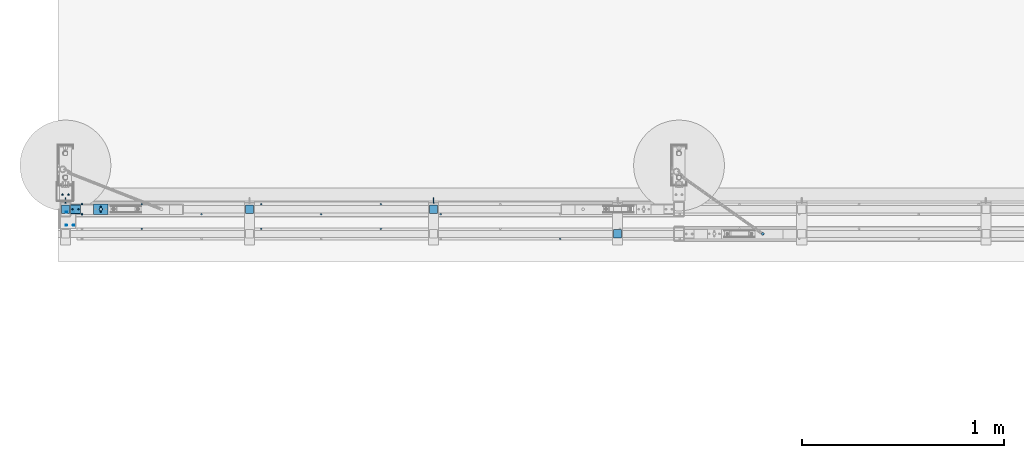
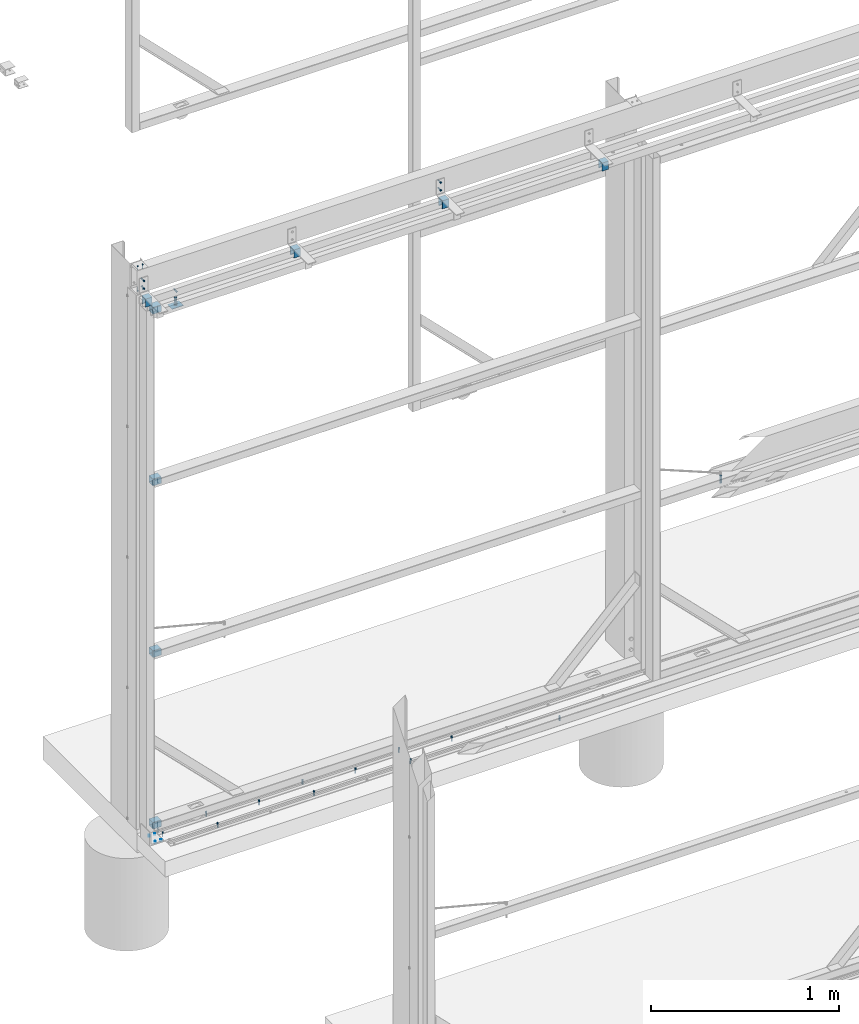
# One storey, part 36 of 91: 22 mechanical fasteners, 10 discrete accessories, 12 elements without a shape of their own.
"""IFC2X3 building model written with IfcOpenShell, lengths in millimetres."""

from ifc_helpers import new_model, si_unit, frame, origin_with_axes, origin_2d_with_axis, place, context, subcontext, project, spatial, polyline, hollow_rectangle, circle, c_section, outline, extrude, source, transform, mapped, material, type_object, element, aggregate, save


model = new_model("IFC2X3")

# Units and contexts
model_context = context("Model", 3, precision=1e-05, world=origin_with_axes())
body_context = subcontext(model_context, "Body", "Model", "MODEL_VIEW")
ifc_project = project(units=[si_unit("LENGTHUNIT", "METRE", prefix="MILLI"), si_unit("AREAUNIT", "SQUARE_METRE"), si_unit("VOLUMEUNIT", "CUBIC_METRE"), si_unit("MASSUNIT", "GRAM", prefix="KILO"), si_unit("TIMEUNIT", "SECOND"), si_unit("PLANEANGLEUNIT", "RADIAN"), si_unit("SOLIDANGLEUNIT", "STERADIAN"), si_unit("THERMODYNAMICTEMPERATUREUNIT", "DEGREE_CELSIUS"), si_unit("LUMINOUSINTENSITYUNIT", "LUMEN")], contexts=[model_context])

# Site, building, storey
site_placement = place(None, origin_with_axes())
site = spatial("IfcSite", under=ifc_project, at=site_placement, Name="Undefined", CompositionType="ELEMENT")
building_placement = place(site_placement, origin_with_axes())
building = spatial("IfcBuilding", under=site, at=building_placement, Name="Undefined", CompositionType="ELEMENT")
storey_placement = place(building_placement, origin_with_axes())
storey = spatial("IfcBuildingStorey", under=building, at=storey_placement, Name="Undefined", CompositionType="ELEMENT", Elevation=0.0)

# Assembly, discrete accessory
assembly_1_placement = place(storey_placement, origin_with_axes())
assembly_1 = element("IfcElementAssembly", 1, at=assembly_1_placement, inside=storey, Name="ROD", AssemblyPlace="NOTDEFINED", PredefinedType="RIGID_FRAME")
ifc_material_1 = material(Name="STEEL/250")
discrete_accessory_type_1 = type_object("IfcDiscreteAccessoryType", Name="PLATE")
discrete_accessory_1_placement = place(assembly_1_placement, frame((-116655.84, 87737.15, 3324.5), z_axis=(0.0, 0.0, 1.0), x_axis=(0.0, -1.0, 0.0)))
discrete_accessory_1 = element("IfcDiscreteAccessory", 2, at=discrete_accessory_1_placement, type_object=discrete_accessory_type_1, material=ifc_material_1, Name="PLATE", ObjectType="PLT3*50", context=body_context, shape_type="SweptSolid", body=[
    extrude(outline(polyline([(0.0, 0.0), (50.0, 0.0), (50.0, 70.0), (0.0, 70.0), (0.0, 0.0)])), frame((0.0, 0.0, -1.5), z_axis=(0.0, 0.0, 1.0), x_axis=(1.0, 0.0, 0.0)), (0.0, 0.0, 1.0), 3.0),
])

# Assembly, mechanical fastener
assembly_2_placement = place(storey_placement, origin_with_axes())
assembly_2 = element("IfcElementAssembly", 3, at=assembly_2_placement, inside=storey, Name="DOOR STOPPER", AssemblyPlace="NOTDEFINED", PredefinedType="RIGID_FRAME")
ifc_material_2 = material(Name="TEK_11TPIM")
discrete_accessory_type_2 = type_object("IfcDiscreteAccessoryType", Name="Bolt assembly")
shared_shape_1 = source(origin_with_axes(), body_context, "Body", "SweptSolid", [
    extrude(circle(Radius=3.0, at=origin_2d_with_axis()), frame((0.0, 0.0, 0.0), z_axis=(0.0, 1.0, 0.0), x_axis=(1.0, 0.0, 0.0)), (0.0, 0.0, 1.0), 7.9),
])
mechanical_fastener_1_placement = place(assembly_2_placement, frame((-116773.34, 87632.6509765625, -49.2), z_axis=(-1.0, 0.0, 0.0), x_axis=(0.0, 1.0, 0.0)))
mechanical_fastener_1 = element("IfcMechanicalFastener", 4, at=mechanical_fastener_1_placement, type_object=discrete_accessory_type_2, material=ifc_material_2, Name="Bolt assembly", NominalDiameter=6.0, NominalLength=7.80000019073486, context=body_context, shape_type="MappedRepresentation", body=[
    mapped(shared_shape_1, transform((0.0, 0.0, -17.5))),
    mapped(shared_shape_1, transform((65.0, 0.0, -17.5))),
    mapped(shared_shape_1, transform((0.0, 0.0, 17.5))),
    mapped(shared_shape_1, transform((65.0, 0.0, 17.5))),
])
aggregate(assembly_2, [mechanical_fastener_1])

assembly_3_placement = place(storey_placement, origin_with_axes())
assembly_3 = element("IfcElementAssembly", 5, at=assembly_3_placement, inside=storey, Name="SLIDING DOOR", AssemblyPlace="NOTDEFINED", PredefinedType="RIGID_FRAME")
ifc_material_3 = material(Name="8.8S")
shared_shape_2 = source(origin_with_axes(), body_context, "Body", "SweptSolid", [
    extrude(circle(Radius=7.0, at=origin_2d_with_axis()), frame((0.0, 0.0033333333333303, 0.0), z_axis=(0.0, 1.0, 0.0), x_axis=(1.0, 0.0, 0.0)), (0.0, 0.0, 1.0), 50.1),
])
mechanical_fastener_2_placement = place(assembly_3_placement, frame((-113343.336232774, 87590.15, 1147.34), z_axis=(1.0, 0.0, 0.0), x_axis=(0.0, -1.0, 0.0)))
mechanical_fastener_2 = element("IfcMechanicalFastener", 6, at=mechanical_fastener_2_placement, type_object=discrete_accessory_type_2, material=ifc_material_3, Name="Bolt assembly", NominalDiameter=12.0, NominalLength=49.9966659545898, context=body_context, shape_type="MappedRepresentation", body=[
    mapped(shared_shape_2, transform((0.0, 0.0, 0.0))),
])
aggregate(assembly_3, [mechanical_fastener_2])

assembly_4_placement = place(storey_placement, origin_with_axes())
assembly_4 = element("IfcElementAssembly", 7, at=assembly_4_placement, inside=storey, Name="SLIDING DOOR", AssemblyPlace="NOTDEFINED", PredefinedType="RIGID_FRAME")
shared_shape_3 = source(origin_with_axes(), body_context, "Body", "SweptSolid", [
    extrude(circle(Radius=8.0, at=origin_2d_with_axis()), frame((0.0, 0.0, 0.0), z_axis=(0.0, 1.0, 0.0), x_axis=(1.0, 0.0, 0.0)), (0.0, 0.0, 1.0), 50.1),
])
mechanical_fastener_3_placement = place(assembly_4_placement, frame((-116620.84, 87712.15, 3326.0), z_axis=(0.0, -1.0, 0.0), x_axis=(1.0, 0.0, 0.0)))
mechanical_fastener_3 = element("IfcMechanicalFastener", 8, at=mechanical_fastener_3_placement, type_object=discrete_accessory_type_2, material=ifc_material_3, Name="Bolt assembly", NominalDiameter=10.0, NominalLength=50.0, context=body_context, shape_type="MappedRepresentation", body=[
    mapped(shared_shape_3, transform((0.0, 0.0, 0.0))),
])
aggregate(assembly_4, [mechanical_fastener_3])

# Discrete accessory
discrete_accessory_type_3 = type_object("IfcDiscreteAccessoryType", Name="SPRING PIN")
discrete_accessory_2_placement = place(assembly_1_placement, frame((-116620.84, 87697.15, 3421.0), z_axis=(1.0, 0.0, 0.0), x_axis=(0.0, 1.0, 0.0)))
discrete_accessory_2 = element("IfcDiscreteAccessory", 9, at=discrete_accessory_2_placement, type_object=discrete_accessory_type_3, material=ifc_material_1, Name="SPRING PIN", ObjectType="D6", context=body_context, shape_type="SweptSolid", body=[
    extrude(circle(Radius=3.0, at=origin_2d_with_axis()), frame((30.0, 0.0, 0.0), z_axis=(-1.0, 0.0, 0.0), x_axis=(0.0, -1.0, 0.0)), (0.0, 0.0, 1.0), 30.0),
])

aggregate(assembly_1, [discrete_accessory_2, discrete_accessory_1])

# Assembly, mechanical fastener
assembly_5_placement = place(storey_placement, origin_with_axes())
assembly_5 = element("IfcElementAssembly", 10, at=assembly_5_placement, inside=storey, Name="DOOR BRACKET", AssemblyPlace="NOTDEFINED", PredefinedType="RIGID_FRAME")
shared_shape_4 = source(origin_with_axes(), body_context, "Body", "SweptSolid", [
    extrude(circle(Radius=3.0, at=origin_2d_with_axis()), frame((0.0, -6.0, 0.0), z_axis=(0.0, 1.0, 0.0), x_axis=(1.0, 0.0, 0.0)), (0.0, 0.0, 1.0), 6.1),
    extrude(outline(polyline([(4.61880215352, 0.0), (2.30940107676, 4.00000000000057), (-2.30940107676, 4.00000000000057), (-4.61880215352, 0.0), (-2.30940107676, -4.00000000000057), (2.30940107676, -4.00000000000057), (4.61880215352, 0.0)])), frame((0.0, -11.1000000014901, 0.0), z_axis=(0.0, 1.0, 0.0), x_axis=(1.0, 0.0, 0.0)), (0.0, 0.0, 1.0), 5.0),
    extrude(circle(Radius=3.0, at=origin_2d_with_axis()), frame((0.0, -6.10000000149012, 0.0), z_axis=(0.0, 1.0, 0.0), x_axis=(1.0, 0.0, 0.0)), (0.0, 0.0, 1.0), 25.0),
    extrude(circle(Radius=3.0, at=origin_2d_with_axis()), frame((0.0, -6.10000000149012, 0.0), z_axis=(0.0, 1.0, 0.0), x_axis=(1.0, 0.0, 0.0)), (0.0, 0.0, 1.0), 0.1),
    extrude(circle(Radius=3.0, at=origin_2d_with_axis()), frame((0.0, 0.0, 0.0), z_axis=(0.0, 1.0, 0.0), x_axis=(1.0, 0.0, 0.0)), (0.0, 0.0, 1.0), 0.1),
    extrude(outline(polyline([(3.46410161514, 0.0), (1.73205080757, 3.00000000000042), (-1.73205080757, 3.00000000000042), (-3.46410161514, 0.0), (-1.73205080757, -3.00000000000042), (1.73205080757, -3.00000000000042), (3.46410161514, 0.0)])), frame((0.0, 0.1, 0.0), z_axis=(0.0, 1.0, 0.0), x_axis=(1.0, 0.0, 0.0)), (0.0, 0.0, 1.0), 0.1),
])
mechanical_fastener_4_placement = place(assembly_5_placement, frame((-114973.34, 87752.15, 3524.0), z_axis=(1.0, 0.0, 0.0), x_axis=(0.0, 0.0, -1.0)))
mechanical_fastener_4 = element("IfcMechanicalFastener", 11, at=mechanical_fastener_4_placement, type_object=discrete_accessory_type_2, material=ifc_material_2, Name="Bolt assembly", NominalDiameter=6.0, NominalLength=25.0, context=body_context, shape_type="MappedRepresentation", body=[
    mapped(shared_shape_4, transform((0.0, 0.0, 0.0))),
    mapped(shared_shape_4, transform((50.0, 0.0, 0.0))),
])

assembly_6_placement = place(storey_placement, origin_with_axes())
assembly_6 = element("IfcElementAssembly", 12, at=assembly_6_placement, inside=storey, Name="DOOR BRACKET", AssemblyPlace="NOTDEFINED", PredefinedType="RIGID_FRAME")
mechanical_fastener_5_placement = place(assembly_6_placement, frame((-116795.84, 87752.15, 3524.0), z_axis=(1.0, 0.0, 0.0), x_axis=(0.0, 0.0, -1.0)))
mechanical_fastener_5 = element("IfcMechanicalFastener", 13, at=mechanical_fastener_5_placement, type_object=discrete_accessory_type_2, material=ifc_material_2, Name="Bolt assembly", NominalDiameter=6.0, NominalLength=25.0, context=body_context, shape_type="MappedRepresentation", body=[
    mapped(shared_shape_4, transform((0.0, 0.0, 0.0))),
    mapped(shared_shape_4, transform((50.0, 0.0, 0.0))),
])

# Assembly, mechanical fasteners
assembly_7_placement = place(storey_placement, origin_with_axes())
assembly_7 = element("IfcElementAssembly", 14, at=assembly_7_placement, inside=storey, Name="SLIDING DOOR", AssemblyPlace="NOTDEFINED", PredefinedType="RIGID_FRAME")
shared_shape_5 = source(origin_with_axes(), body_context, "Body", "SweptSolid", [
    extrude(circle(Radius=3.0, at=origin_2d_with_axis()), frame((0.0, 0.103333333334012, 0.0), z_axis=(0.0, 1.0, 0.0), x_axis=(1.0, 0.0, 0.0)), (0.0, 0.0, 1.0), 2.0),
    extrude(circle(Radius=3.0, at=origin_2d_with_axis()), frame((0.0, 2.4, 0.0), z_axis=(0.0, 1.0, 0.0), x_axis=(1.0, 0.0, 0.0)), (0.0, 0.0, 1.0), 1.7),
    extrude(outline(polyline([(4.61880215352, 0.0), (2.30940107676, 4.00000000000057), (-2.30940107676, 4.00000000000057), (-4.61880215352, 0.0), (-2.30940107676, -4.00000000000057), (2.30940107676, -4.00000000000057), (4.61880215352, 0.0)])), frame((0.0, -4.99666666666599, 0.0), z_axis=(0.0, 1.0, 0.0), x_axis=(1.0, 0.0, 0.0)), (0.0, 0.0, 1.0), 5.0),
    extrude(circle(Radius=3.0, at=origin_2d_with_axis()), frame((0.0, 0.0033333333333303, 0.0), z_axis=(0.0, 1.0, 0.0), x_axis=(1.0, 0.0, 0.0)), (0.0, 0.0, 1.0), 25.0),
    extrude(circle(Radius=3.0, at=origin_2d_with_axis()), frame((0.0, 4.10000002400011, 0.0), z_axis=(0.0, 1.0, 0.0), x_axis=(1.0, 0.0, 0.0)), (0.0, 0.0, 1.0), 0.1),
    extrude(outline(polyline([(3.46410161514, 0.0), (1.73205080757, 3.00000000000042), (-1.73205080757, 3.00000000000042), (-3.46410161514, 0.0), (-1.73205080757, -3.00000000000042), (1.73205080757, -3.00000000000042), (3.46410161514, 0.0)])), frame((0.0, 4.20000002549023, 0.0), z_axis=(0.0, 1.0, 0.0), x_axis=(1.0, 0.0, 0.0)), (0.0, 0.0, 1.0), 0.1),
])
mechanical_fastener_6_placement = place(assembly_7_placement, frame((-116760.84, 87712.15, 2211.66), z_axis=(0.0, -1.0, 0.0), x_axis=(1.0, 0.0, 0.0)))
mechanical_fastener_6 = element("IfcMechanicalFastener", 15, at=mechanical_fastener_6_placement, type_object=discrete_accessory_type_2, material=ifc_material_2, Name="Bolt assembly", NominalDiameter=6.0, NominalLength=25.0, context=body_context, shape_type="MappedRepresentation", body=[
    mapped(shared_shape_5, transform((0.0, 0.0, 0.0))),
    mapped(shared_shape_5, transform((30.0, 0.0, 0.0))),
])
shared_shape_6 = source(origin_with_axes(), body_context, "Body", "SweptSolid", [
    extrude(circle(Radius=3.0, at=origin_2d_with_axis()), frame((0.0, 0.0966666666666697, 0.0), z_axis=(0.0, 1.0, 0.0), x_axis=(1.0, 0.0, 0.0)), (0.0, 0.0, 1.0), 2.0),
    extrude(circle(Radius=3.0, at=origin_2d_with_axis()), frame((0.0, 2.4, 0.0), z_axis=(0.0, 1.0, 0.0), x_axis=(1.0, 0.0, 0.0)), (0.0, 0.0, 1.0), 1.7),
    extrude(outline(polyline([(4.61880215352, 0.0), (2.30940107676, 4.00000000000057), (-2.30940107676, 4.00000000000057), (-4.61880215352, 0.0), (-2.30940107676, -4.00000000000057), (2.30940107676, -4.00000000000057), (4.61880215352, 0.0)])), frame((0.0, -5.00333333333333, 0.0), z_axis=(0.0, 1.0, 0.0), x_axis=(1.0, 0.0, 0.0)), (0.0, 0.0, 1.0), 5.0),
    extrude(circle(Radius=3.0, at=origin_2d_with_axis()), frame((0.0, -0.0033333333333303, 0.0), z_axis=(0.0, 1.0, 0.0), x_axis=(1.0, 0.0, 0.0)), (0.0, 0.0, 1.0), 25.0),
    extrude(circle(Radius=3.0, at=origin_2d_with_axis()), frame((0.0, 4.10000002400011, 0.0), z_axis=(0.0, 1.0, 0.0), x_axis=(1.0, 0.0, 0.0)), (0.0, 0.0, 1.0), 0.1),
    extrude(outline(polyline([(3.46410161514, 0.0), (1.73205080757, 3.00000000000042), (-1.73205080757, 3.00000000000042), (-3.46410161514, 0.0), (-1.73205080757, -3.00000000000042), (1.73205080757, -3.00000000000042), (3.46410161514, 0.0)])), frame((0.0, 4.20000002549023, 0.0), z_axis=(0.0, 1.0, 0.0), x_axis=(1.0, 0.0, 0.0)), (0.0, 0.0, 1.0), 0.1),
])
mechanical_fastener_7_placement = place(assembly_7_placement, frame((-116760.84, 87712.15, 1097.34), z_axis=(0.0, -1.0, 0.0), x_axis=(1.0, 0.0, 0.0)))
mechanical_fastener_7 = element("IfcMechanicalFastener", 16, at=mechanical_fastener_7_placement, type_object=discrete_accessory_type_2, material=ifc_material_2, Name="Bolt assembly", NominalDiameter=6.0, NominalLength=25.0, context=body_context, shape_type="MappedRepresentation", body=[
    mapped(shared_shape_6, transform((0.0, 0.0, 0.0))),
    mapped(shared_shape_6, transform((30.0, 0.0, 0.0))),
])
ifc_material_4 = material(Name="TEK_16TPIM")
shared_shape_7 = source(origin_with_axes(), body_context, "Body", "SweptSolid", [
    extrude(circle(Radius=3.5, at=origin_2d_with_axis()), frame((0.0, 0.1, 0.0), z_axis=(0.0, 1.0, 0.0), x_axis=(1.0, 0.0, 0.0)), (0.0, 0.0, 1.0), 2.0),
    extrude(circle(Radius=3.5, at=origin_2d_with_axis()), frame((0.0, 2.4, 0.0), z_axis=(0.0, 1.0, 0.0), x_axis=(1.0, 0.0, 0.0)), (0.0, 0.0, 1.0), 1.7),
    extrude(outline(polyline([(4.04145188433, 0.0), (2.020725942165, 3.5000000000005), (-2.020725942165, 3.5000000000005), (-4.04145188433, 0.0), (-2.020725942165, -3.5000000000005), (2.020725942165, -3.5000000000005), (4.04145188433, 0.0)])), frame((0.0, -5.0, 0.0), z_axis=(0.0, 1.0, 0.0), x_axis=(1.0, 0.0, 0.0)), (0.0, 0.0, 1.0), 5.0),
    extrude(circle(Radius=2.5, at=origin_2d_with_axis()), frame((0.0, 0.0, 0.0), z_axis=(0.0, 1.0, 0.0), x_axis=(1.0, 0.0, 0.0)), (0.0, 0.0, 1.0), 25.0),
    extrude(circle(Radius=2.5, at=origin_2d_with_axis()), frame((0.0, 4.10000002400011, 0.0), z_axis=(0.0, 1.0, 0.0), x_axis=(1.0, 0.0, 0.0)), (0.0, 0.0, 1.0), 0.1),
    extrude(outline(polyline([(2.88675134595, 0.0), (1.443375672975, 2.50000000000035), (-1.443375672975, 2.50000000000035), (-2.88675134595, 0.0), (-1.443375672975, -2.50000000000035), (1.443375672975, -2.50000000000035), (2.88675134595, 0.0)])), frame((0.0, 4.20000002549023, 0.0), z_axis=(0.0, 1.0, 0.0), x_axis=(1.0, 0.0, 0.0)), (0.0, 0.0, 1.0), 0.1),
])
mechanical_fastener_8_placement = place(assembly_7_placement, frame((-116760.84, 87712.15, -17.0), z_axis=(0.0, -1.0, 0.0), x_axis=(1.0, 0.0, 0.0)))
mechanical_fastener_8 = element("IfcMechanicalFastener", 17, at=mechanical_fastener_8_placement, type_object=discrete_accessory_type_2, material=ifc_material_4, Name="Bolt assembly", NominalDiameter=5.0, NominalLength=25.0, context=body_context, shape_type="MappedRepresentation", body=[
    mapped(shared_shape_7, transform((0.0, 0.0, 0.0))),
    mapped(shared_shape_7, transform((30.0, 0.0, 0.0))),
])
shared_shape_8 = source(origin_with_axes(), body_context, "Body", "SweptSolid", [
    extrude(circle(Radius=3.0, at=origin_2d_with_axis()), frame((0.0, 0.1, 0.0), z_axis=(0.0, 1.0, 0.0), x_axis=(1.0, 0.0, 0.0)), (0.0, 0.0, 1.0), 2.0),
    extrude(circle(Radius=3.0, at=origin_2d_with_axis()), frame((0.0, 2.4, 0.0), z_axis=(0.0, 1.0, 0.0), x_axis=(1.0, 0.0, 0.0)), (0.0, 0.0, 1.0), 1.7),
    extrude(outline(polyline([(4.61880215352, 0.0), (2.30940107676, 4.00000000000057), (-2.30940107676, 4.00000000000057), (-4.61880215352, 0.0), (-2.30940107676, -4.00000000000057), (2.30940107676, -4.00000000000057), (4.61880215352, 0.0)])), frame((0.0, -5.0, 0.0), z_axis=(0.0, 1.0, 0.0), x_axis=(1.0, 0.0, 0.0)), (0.0, 0.0, 1.0), 5.0),
    extrude(circle(Radius=3.0, at=origin_2d_with_axis()), frame((0.0, 0.0, 0.0), z_axis=(0.0, 1.0, 0.0), x_axis=(1.0, 0.0, 0.0)), (0.0, 0.0, 1.0), 25.0),
    extrude(circle(Radius=3.0, at=origin_2d_with_axis()), frame((0.0, 4.10000002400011, 0.0), z_axis=(0.0, 1.0, 0.0), x_axis=(1.0, 0.0, 0.0)), (0.0, 0.0, 1.0), 0.1),
    extrude(outline(polyline([(3.46410161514, 0.0), (1.73205080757, 3.00000000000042), (-1.73205080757, 3.00000000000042), (-3.46410161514, 0.0), (-1.73205080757, -3.00000000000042), (1.73205080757, -3.00000000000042), (3.46410161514, 0.0)])), frame((0.0, 4.20000002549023, 0.0), z_axis=(0.0, 1.0, 0.0), x_axis=(1.0, 0.0, 0.0)), (0.0, 0.0, 1.0), 0.1),
])
mechanical_fastener_9_placement = place(assembly_7_placement, frame((-116760.84, 87712.15, 3326.0), z_axis=(0.0, -1.0, 0.0), x_axis=(1.0, 0.0, 0.0)))
mechanical_fastener_9 = element("IfcMechanicalFastener", 18, at=mechanical_fastener_9_placement, type_object=discrete_accessory_type_2, material=ifc_material_2, Name="Bolt assembly", NominalDiameter=6.0, NominalLength=25.0, context=body_context, shape_type="MappedRepresentation", body=[
    mapped(shared_shape_8, transform((0.0, 0.0, 0.0))),
    mapped(shared_shape_8, transform((30.0, 0.0, 0.0))),
])

assembly_8_placement = place(storey_placement, origin_with_axes())
assembly_8 = element("IfcElementAssembly", 19, at=assembly_8_placement, inside=storey, Name="DOOR TRACK", AssemblyPlace="NOTDEFINED", PredefinedType="RIGID_FRAME")
ifc_material_5 = material(Name="TEK_10TPII")
shared_shape_9 = source(origin_with_axes(), body_context, "Body", "SweptSolid", [
    extrude(circle(Radius=4.07999992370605, at=origin_2d_with_axis()), frame((0.0, 0.0, 0.0), z_axis=(0.0, 1.0, 0.0), x_axis=(1.0, 0.0, 0.0)), (0.0, 0.0, 1.0), 3.1),
    extrude(outline(polyline([(4.61880215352, 0.0), (2.30940107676, 4.00000000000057), (-2.30940107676, 4.00000000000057), (-4.61880215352, 0.0), (-2.30940107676, -4.00000000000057), (2.30940107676, -4.00000000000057), (4.61880215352, 0.0)])), frame((0.0, -5.0, 0.0), z_axis=(0.0, 1.0, 0.0), x_axis=(1.0, 0.0, 0.0)), (0.0, 0.0, 1.0), 5.0),
    extrude(circle(Radius=3.07999992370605, at=origin_2d_with_axis()), frame((0.0, 0.0, 0.0), z_axis=(0.0, 1.0, 0.0), x_axis=(1.0, 0.0, 0.0)), (0.0, 0.0, 1.0), 25.0),
    extrude(circle(Radius=3.0, at=origin_2d_with_axis()), frame((0.0, 3.0, 0.0), z_axis=(0.0, 1.0, 0.0), x_axis=(1.0, 0.0, 0.0)), (0.0, 0.0, 1.0), 0.1),
    extrude(outline(polyline([(3.46410161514, 0.0), (1.73205080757, 3.00000000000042), (-1.73205080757, 3.00000000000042), (-3.46410161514, 0.0), (-1.73205080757, -3.00000000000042), (1.73205080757, -3.00000000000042), (3.46410161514, 0.0)])), frame((0.0, 3.10000000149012, 0.0), z_axis=(0.0, 1.0, 0.0), x_axis=(1.0, 0.0, 0.0)), (0.0, 0.0, 1.0), 0.1),
])
mechanical_fastener_10_placement = place(assembly_8_placement, frame((-114938.44, 87687.151953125, -54.0), z_axis=(0.0, 1.0, 0.0), x_axis=(1.0, 0.0, 0.0)))
mechanical_fastener_10 = element("IfcMechanicalFastener", 20, at=mechanical_fastener_10_placement, type_object=discrete_accessory_type_2, material=ifc_material_5, Name="Bolt assembly", NominalDiameter=6.15999984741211, NominalLength=25.0, context=body_context, shape_type="MappedRepresentation", body=[
    mapped(shared_shape_9, transform((0.0, 0.0, 0.0))),
])
mechanical_fastener_11_placement = place(assembly_8_placement, frame((-115234.34, 87737.151953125, -54.0), z_axis=(0.0, 1.0, 0.0), x_axis=(1.0, 0.0, 0.0)))
mechanical_fastener_11 = element("IfcMechanicalFastener", 21, at=mechanical_fastener_11_placement, type_object=discrete_accessory_type_2, material=ifc_material_5, Name="Bolt assembly", NominalDiameter=6.15999984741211, NominalLength=25.0, context=body_context, shape_type="MappedRepresentation", body=[
    mapped(shared_shape_9, transform((0.0, 0.0, 0.0))),
])
mechanical_fastener_12_placement = place(assembly_8_placement, frame((-115530.24, 87687.151953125, -54.0), z_axis=(0.0, 1.0, 0.0), x_axis=(1.0, 0.0, 0.0)))
mechanical_fastener_12 = element("IfcMechanicalFastener", 22, at=mechanical_fastener_12_placement, type_object=discrete_accessory_type_2, material=ifc_material_5, Name="Bolt assembly", NominalDiameter=6.15999984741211, NominalLength=25.0, context=body_context, shape_type="MappedRepresentation", body=[
    mapped(shared_shape_9, transform((0.0, 0.0, 0.0))),
])
mechanical_fastener_13_placement = place(assembly_8_placement, frame((-115826.14, 87737.151953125, -54.0), z_axis=(0.0, 1.0, 0.0), x_axis=(1.0, 0.0, 0.0)))
mechanical_fastener_13 = element("IfcMechanicalFastener", 23, at=mechanical_fastener_13_placement, type_object=discrete_accessory_type_2, material=ifc_material_5, Name="Bolt assembly", NominalDiameter=6.15999984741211, NominalLength=25.0, context=body_context, shape_type="MappedRepresentation", body=[
    mapped(shared_shape_9, transform((0.0, 0.0, 0.0))),
])
mechanical_fastener_14_placement = place(assembly_8_placement, frame((-116122.04, 87687.151953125, -54.0), z_axis=(0.0, 1.0, 0.0), x_axis=(1.0, 0.0, 0.0)))
mechanical_fastener_14 = element("IfcMechanicalFastener", 24, at=mechanical_fastener_14_placement, type_object=discrete_accessory_type_2, material=ifc_material_5, Name="Bolt assembly", NominalDiameter=6.15999984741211, NominalLength=25.0, context=body_context, shape_type="MappedRepresentation", body=[
    mapped(shared_shape_9, transform((0.0, 0.0, 0.0))),
])
mechanical_fastener_15_placement = place(assembly_8_placement, frame((-116417.94, 87737.151953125, -54.0), z_axis=(0.0, 1.0, 0.0), x_axis=(1.0, 0.0, 0.0)))
mechanical_fastener_15 = element("IfcMechanicalFastener", 25, at=mechanical_fastener_15_placement, type_object=discrete_accessory_type_2, material=ifc_material_5, Name="Bolt assembly", NominalDiameter=6.15999984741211, NominalLength=25.0, context=body_context, shape_type="MappedRepresentation", body=[
    mapped(shared_shape_9, transform((0.0, 0.0, 0.0))),
])
mechanical_fastener_16_placement = place(assembly_8_placement, frame((-116713.84, 87712.151953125, -54.0), z_axis=(0.0, 1.0, 0.0), x_axis=(1.0, 0.0, 0.0)))
mechanical_fastener_16 = element("IfcMechanicalFastener", 26, at=mechanical_fastener_16_placement, type_object=discrete_accessory_type_2, material=ifc_material_5, Name="Bolt assembly", NominalDiameter=6.15999984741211, NominalLength=25.0, context=body_context, shape_type="MappedRepresentation", body=[
    mapped(shared_shape_9, transform((0.0, 0.0, -25.0))),
    mapped(shared_shape_9, transform((0.0, 0.0, 25.0))),
])
aggregate(assembly_8, [mechanical_fastener_10, mechanical_fastener_11, mechanical_fastener_12, mechanical_fastener_13, mechanical_fastener_14, mechanical_fastener_15, mechanical_fastener_16])

assembly_9_placement = place(storey_placement, origin_with_axes())
assembly_9 = element("IfcElementAssembly", 27, at=assembly_9_placement, inside=storey, Name="DOOR TRACK", AssemblyPlace="NOTDEFINED", PredefinedType="RIGID_FRAME")
mechanical_fastener_17_placement = place(assembly_9_placement, frame((-114346.64, 87565.151953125, -54.0), z_axis=(0.0, 1.0, 0.0), x_axis=(1.0, 0.0, 0.0)))
mechanical_fastener_17 = element("IfcMechanicalFastener", 28, at=mechanical_fastener_17_placement, type_object=discrete_accessory_type_2, material=ifc_material_5, Name="Bolt assembly", NominalDiameter=6.15999984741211, NominalLength=25.0, context=body_context, shape_type="MappedRepresentation", body=[
    mapped(shared_shape_9, transform((0.0, 0.0, 0.0))),
])
mechanical_fastener_18_placement = place(assembly_9_placement, frame((-115234.34, 87615.151953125, -54.0), z_axis=(0.0, 1.0, 0.0), x_axis=(1.0, 0.0, 0.0)))
mechanical_fastener_18 = element("IfcMechanicalFastener", 29, at=mechanical_fastener_18_placement, type_object=discrete_accessory_type_2, material=ifc_material_5, Name="Bolt assembly", NominalDiameter=6.15999984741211, NominalLength=25.0, context=body_context, shape_type="MappedRepresentation", body=[
    mapped(shared_shape_9, transform((0.0, 0.0, 0.0))),
])
mechanical_fastener_19_placement = place(assembly_9_placement, frame((-115826.14, 87615.151953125, -54.0), z_axis=(0.0, 1.0, 0.0), x_axis=(1.0, 0.0, 0.0)))
mechanical_fastener_19 = element("IfcMechanicalFastener", 30, at=mechanical_fastener_19_placement, type_object=discrete_accessory_type_2, material=ifc_material_5, Name="Bolt assembly", NominalDiameter=6.15999984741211, NominalLength=25.0, context=body_context, shape_type="MappedRepresentation", body=[
    mapped(shared_shape_9, transform((0.0, 0.0, 0.0))),
])
mechanical_fastener_20_placement = place(assembly_9_placement, frame((-116417.94, 87615.151953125, -54.0), z_axis=(0.0, 1.0, 0.0), x_axis=(1.0, 0.0, 0.0)))
mechanical_fastener_20 = element("IfcMechanicalFastener", 31, at=mechanical_fastener_20_placement, type_object=discrete_accessory_type_2, material=ifc_material_5, Name="Bolt assembly", NominalDiameter=6.15999984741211, NominalLength=25.0, context=body_context, shape_type="MappedRepresentation", body=[
    mapped(shared_shape_9, transform((0.0, 0.0, 0.0))),
])
aggregate(assembly_9, [mechanical_fastener_17, mechanical_fastener_18, mechanical_fastener_19, mechanical_fastener_20])

assembly_10_placement = place(storey_placement, origin_with_axes())
assembly_10 = element("IfcElementAssembly", 32, at=assembly_10_placement, inside=storey, Name="FASCIA BRACKET", AssemblyPlace="NOTDEFINED", PredefinedType="RIGID_FRAME")
shared_shape_10 = source(origin_with_axes(), body_context, "Body", "SweptSolid", [
    extrude(circle(Radius=3.5, at=origin_2d_with_axis()), frame((0.0, -2.59999694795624, 0.0), z_axis=(0.0, 1.0, 0.0), x_axis=(1.0, 0.0, 0.0)), (0.0, 0.0, 1.0), 1.7),
    extrude(outline(polyline([(4.04145188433, 0.0), (2.020725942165, 3.5000000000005), (-2.020725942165, 3.5000000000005), (-4.04145188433, 0.0), (-2.020725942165, -3.5000000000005), (2.020725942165, -3.5000000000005), (4.04145188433, 0.0)])), frame((0.0, -7.69999694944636, 0.0), z_axis=(0.0, 1.0, 0.0), x_axis=(1.0, 0.0, 0.0)), (0.0, 0.0, 1.0), 5.0),
    extrude(circle(Radius=2.5, at=origin_2d_with_axis()), frame((0.0, -2.69999694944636, 0.0), z_axis=(0.0, 1.0, 0.0), x_axis=(1.0, 0.0, 0.0)), (0.0, 0.0, 1.0), 25.0),
    extrude(circle(Radius=2.5, at=origin_2d_with_axis()), frame((0.0, -2.69999694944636, 0.0), z_axis=(0.0, 1.0, 0.0), x_axis=(1.0, 0.0, 0.0)), (0.0, 0.0, 1.0), 0.1),
    extrude(circle(Radius=2.5, at=origin_2d_with_axis()), frame((0.0, -1.0, 0.0), z_axis=(0.0, 1.0, 0.0), x_axis=(1.0, 0.0, 0.0)), (0.0, 0.0, 1.0), 0.1),
    extrude(outline(polyline([(2.88675134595, 0.0), (1.443375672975, 2.50000000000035), (-1.443375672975, 2.50000000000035), (-2.88675134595, 0.0), (-1.443375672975, -2.50000000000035), (1.443375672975, -2.50000000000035), (2.88675134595, 0.0)])), frame((0.0, -0.899996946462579, 0.0), z_axis=(0.0, 1.0, 0.0), x_axis=(1.0, 0.0, 0.0)), (0.0, 0.0, 1.0), 0.1),
])
mechanical_fastener_21_placement = place(assembly_10_placement, frame((-116795.839999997, 87784.1514572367, 3444.01721782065), z_axis=(-1.0, 0.0, 0.0), x_axis=(0.0, -1.0, 0.0)))
mechanical_fastener_21 = element("IfcMechanicalFastener", 33, at=mechanical_fastener_21_placement, type_object=discrete_accessory_type_2, material=ifc_material_4, Name="Bolt assembly", NominalDiameter=5.0, NominalLength=25.0, context=body_context, shape_type="MappedRepresentation", body=[
    mapped(shared_shape_10, transform((0.0, 0.0, -15.0))),
    mapped(shared_shape_10, transform((0.0, 0.0, 15.0))),
])
mechanical_fastener_22_placement = place(assembly_10_placement, frame((-116795.839999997, 87784.1514572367, 3596.01721782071), z_axis=(1.0, 0.0, 0.0), x_axis=(0.0, -1.0, 0.0)))
mechanical_fastener_22 = element("IfcMechanicalFastener", 34, at=mechanical_fastener_22_placement, type_object=discrete_accessory_type_2, material=ifc_material_4, Name="Bolt assembly", NominalDiameter=5.0, NominalLength=25.0, context=body_context, shape_type="MappedRepresentation", body=[
    mapped(shared_shape_10, transform((0.0, 0.0, -15.0))),
    mapped(shared_shape_10, transform((0.0, 0.0, 15.0))),
])
aggregate(assembly_10, [mechanical_fastener_21, mechanical_fastener_22])

# Assembly, discrete accessory
assembly_11_placement = place(storey_placement, origin_with_axes())
assembly_11 = element("IfcElementAssembly", 35, at=assembly_11_placement, inside=storey, Name="DOOR BRACKET", AssemblyPlace="NOTDEFINED", PredefinedType="RIGID_FRAME")
discrete_accessory_type_4 = type_object("IfcDiscreteAccessoryType", Name="SLIDING DOOR BRACKET")
discrete_accessory_3_placement = place(assembly_11_placement, frame((-114082.09, 87590.15, 3417.5), z_axis=(0.0, -1.0, 0.0), x_axis=(1.0, 0.0, 0.0)))
discrete_accessory_3 = element("IfcDiscreteAccessory", 36, at=discrete_accessory_3_placement, type_object=discrete_accessory_type_4, material=ifc_material_1, Name="SLIDING DOOR BRACKET", ObjectType="CC41-1.5-7-53", context=body_context, shape_type="SweptSolid", body=[
    extrude(c_section(Depth=41.0, Width=53.0, WallThickness=1.5, Girth=7.0, at=origin_2d_with_axis()), frame((40.0, 0.0, 0.0), z_axis=(-1.0, 0.0, 0.0), x_axis=(0.0, -1.0, 0.0)), (0.0, 0.0, 1.0), 40.0),
])
aggregate(assembly_11, [discrete_accessory_3])

# Discrete accessory
discrete_accessory_4_placement = place(assembly_5_placement, frame((-114993.34, 87712.15, 3417.5), z_axis=(0.0, -1.0, 0.0), x_axis=(1.0, 0.0, 0.0)))
discrete_accessory_4 = element("IfcDiscreteAccessory", 37, at=discrete_accessory_4_placement, type_object=discrete_accessory_type_4, material=ifc_material_1, Name="SLIDING DOOR BRACKET", ObjectType="CC41-1.5-7-53", context=body_context, shape_type="SweptSolid", body=[
    extrude(c_section(Depth=41.0, Width=53.0, WallThickness=1.5, Girth=7.0, at=origin_2d_with_axis()), frame((40.0, 0.0, 0.0), z_axis=(-1.0, 0.0, 0.0), x_axis=(0.0, -1.0, 0.0)), (0.0, 0.0, 1.0), 40.0),
])

aggregate(assembly_5, [mechanical_fastener_4, discrete_accessory_4])

# Assembly, discrete accessory
assembly_12_placement = place(storey_placement, origin_with_axes())
assembly_12 = element("IfcElementAssembly", 38, at=assembly_12_placement, inside=storey, Name="DOOR BRACKET", AssemblyPlace="NOTDEFINED", PredefinedType="RIGID_FRAME")
discrete_accessory_5_placement = place(assembly_12_placement, frame((-115904.59, 87712.15, 3417.5), z_axis=(0.0, -1.0, 0.0), x_axis=(1.0, 0.0, 0.0)))
discrete_accessory_5 = element("IfcDiscreteAccessory", 39, at=discrete_accessory_5_placement, type_object=discrete_accessory_type_4, material=ifc_material_1, Name="SLIDING DOOR BRACKET", ObjectType="CC41-1.5-7-53", context=body_context, shape_type="SweptSolid", body=[
    extrude(c_section(Depth=41.0, Width=53.0, WallThickness=1.5, Girth=7.0, at=origin_2d_with_axis()), frame((40.0, 0.0, 0.0), z_axis=(-1.0, 0.0, 0.0), x_axis=(0.0, -1.0, 0.0)), (0.0, 0.0, 1.0), 40.0),
])
aggregate(assembly_12, [discrete_accessory_5])

# Discrete accessory
discrete_accessory_6_placement = place(assembly_6_placement, frame((-116815.84, 87712.15, 3417.5), z_axis=(0.0, -1.0, 0.0), x_axis=(1.0, 0.0, 0.0)))
discrete_accessory_6 = element("IfcDiscreteAccessory", 40, at=discrete_accessory_6_placement, type_object=discrete_accessory_type_4, material=ifc_material_1, Name="SLIDING DOOR BRACKET", ObjectType="CC41-1.5-7-53", context=body_context, shape_type="SweptSolid", body=[
    extrude(c_section(Depth=41.0, Width=53.0, WallThickness=1.5, Girth=7.0, at=origin_2d_with_axis()), frame((40.0, 0.0, 0.0), z_axis=(-1.0, 0.0, 0.0), x_axis=(0.0, -1.0, 0.0)), (0.0, 0.0, 1.0), 40.0),
])

aggregate(assembly_6, [mechanical_fastener_5, discrete_accessory_6])

ifc_material_6 = material(Name="STEEL/300")
discrete_accessory_type_5 = type_object("IfcDiscreteAccessoryType", Name="SLIDING DOOR")
discrete_accessory_7_placement = place(assembly_7_placement, frame((-116720.84, 87712.15, 3351.0), z_axis=(0.0, -1.0, 0.0), x_axis=(-1.0, 0.0, 0.0)))
discrete_accessory_7 = element("IfcDiscreteAccessory", 41, at=discrete_accessory_7_placement, type_object=discrete_accessory_type_5, material=ifc_material_6, Name="SLIDING DOOR", ObjectType="SHS:45X45X1.6", context=body_context, shape_type="SweptSolid", body=[
    extrude(hollow_rectangle(XDim=45.0, YDim=45.0, WallThickness=1.600000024, InnerFilletRadius=1.600000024, OuterFilletRadius=3.200000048, at=origin_2d_with_axis()), frame((50.0, 0.0, 0.0), z_axis=(-1.0, 0.0, 0.0), x_axis=(0.0, -1.0, 0.0)), (0.0, 0.0, 1.0), 50.0),
])

discrete_accessory_8_placement = place(assembly_7_placement, frame((-116720.84, 87712.15, 2236.66), z_axis=(0.0, -1.0, 0.0), x_axis=(-1.0, 0.0, 0.0)))
discrete_accessory_8 = element("IfcDiscreteAccessory", 42, at=discrete_accessory_8_placement, type_object=discrete_accessory_type_5, material=ifc_material_6, Name="SLIDING DOOR", ObjectType="SHS:45X45X1.6", context=body_context, shape_type="SweptSolid", body=[
    extrude(hollow_rectangle(XDim=45.0, YDim=45.0, WallThickness=1.600000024, InnerFilletRadius=1.600000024, OuterFilletRadius=3.200000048, at=origin_2d_with_axis()), frame((50.0, 0.0, 0.0), z_axis=(-1.0, 0.0, 0.0), x_axis=(0.0, -1.0, 0.0)), (0.0, 0.0, 1.0), 50.0),
])

discrete_accessory_9_placement = place(assembly_7_placement, frame((-116720.84, 87712.15, 1122.34), z_axis=(0.0, -1.0, 0.0), x_axis=(-1.0, 0.0, 0.0)))
discrete_accessory_9 = element("IfcDiscreteAccessory", 43, at=discrete_accessory_9_placement, type_object=discrete_accessory_type_5, material=ifc_material_6, Name="SLIDING DOOR", ObjectType="SHS:45X45X1.6", context=body_context, shape_type="SweptSolid", body=[
    extrude(hollow_rectangle(XDim=45.0, YDim=45.0, WallThickness=1.600000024, InnerFilletRadius=1.600000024, OuterFilletRadius=3.200000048, at=origin_2d_with_axis()), frame((50.0, 0.0, 0.0), z_axis=(-1.0, 0.0, 0.0), x_axis=(0.0, -1.0, 0.0)), (0.0, 0.0, 1.0), 50.0),
])

discrete_accessory_10_placement = place(assembly_7_placement, frame((-116720.84, 87712.15, 8.0), z_axis=(0.0, -1.0, 0.0), x_axis=(-1.0, 0.0, 0.0)))
discrete_accessory_10 = element("IfcDiscreteAccessory", 44, at=discrete_accessory_10_placement, type_object=discrete_accessory_type_5, material=ifc_material_6, Name="SLIDING DOOR", ObjectType="SHS:45X45X1.6", context=body_context, shape_type="SweptSolid", body=[
    extrude(hollow_rectangle(XDim=45.0, YDim=45.0, WallThickness=1.600000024, InnerFilletRadius=1.600000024, OuterFilletRadius=3.200000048, at=origin_2d_with_axis()), frame((50.0, 0.0, 0.0), z_axis=(-1.0, 0.0, 0.0), x_axis=(0.0, -1.0, 0.0)), (0.0, 0.0, 1.0), 50.0),
])

aggregate(assembly_7, [mechanical_fastener_6, mechanical_fastener_7, mechanical_fastener_8, mechanical_fastener_9, discrete_accessory_7, discrete_accessory_8, discrete_accessory_9, discrete_accessory_10])

save(model, "model.ifc")
